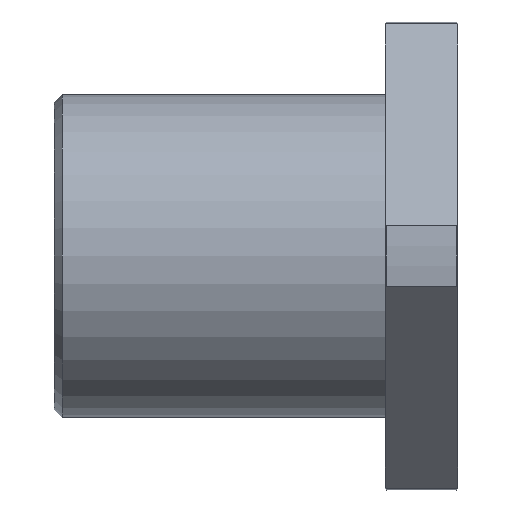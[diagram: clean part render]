
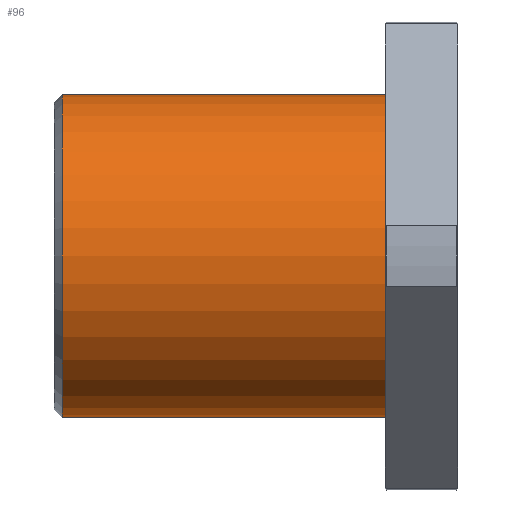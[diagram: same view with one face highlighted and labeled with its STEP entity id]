
A CAD part, front view. The second image highlights one B-rep face of the part: STEP entity #96.
In plain terms, the highlighted cylindrical face has radius 40 mm (diameter 80 mm), a full revolution.
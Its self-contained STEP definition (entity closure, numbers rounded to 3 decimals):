
#96=ADVANCED_FACE('',(#161,#162),#163,.T.);
#161=FACE_OUTER_BOUND('',#255,.T.);
#162=FACE_OUTER_BOUND('',#256,.T.);
#163=CYLINDRICAL_SURFACE('',#257,40.0);
#255=EDGE_LOOP('',(#462));
#256=EDGE_LOOP('',(#463));
#257=AXIS2_PLACEMENT_3D('',#464,#465,#466);
#462=ORIENTED_EDGE('',*,*,#595,.F.);
#463=ORIENTED_EDGE('',*,*,#596,.T.);
#464=CARTESIAN_POINT('',(-100.0,0.,0.0));
#465=DIRECTION('',(1.0,-0.0,-0.0));
#466=DIRECTION('',(0.0,0.0,1.0));
#595=EDGE_CURVE('',#705,#705,#706,.T.);
#596=EDGE_CURVE('',#707,#707,#708,.T.);
#705=VERTEX_POINT('',#891);
#706=CIRCLE('',#892,40.0);
#707=VERTEX_POINT('',#893);
#708=CIRCLE('',#894,40.0);
#891=CARTESIAN_POINT('',(-98.0,0.,40.0));
#892=AXIS2_PLACEMENT_3D('',#1006,#1007,#1008);
#893=CARTESIAN_POINT('',(-18.0,0.,40.0));
#894=AXIS2_PLACEMENT_3D('',#1009,#1010,#1011);
#1006=CARTESIAN_POINT('',(-98.0,0.,0.0));
#1007=DIRECTION('',(-1.0,0.0,0.0));
#1008=DIRECTION('',(0.0,0.0,1.0));
#1009=CARTESIAN_POINT('',(-18.0,0.,0.0));
#1010=DIRECTION('',(-1.0,0.0,0.0));
#1011=DIRECTION('',(0.0,0.0,1.0));
